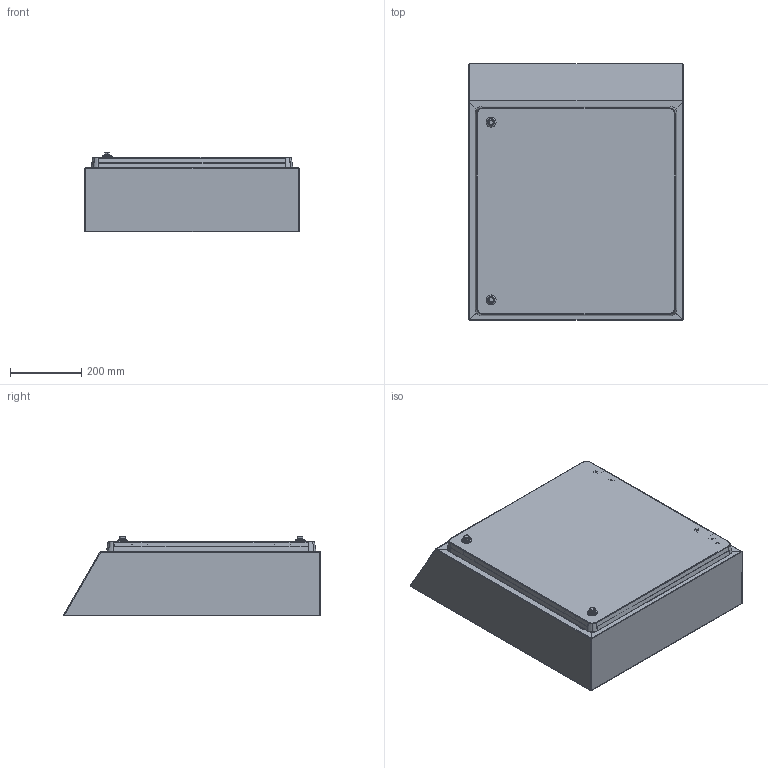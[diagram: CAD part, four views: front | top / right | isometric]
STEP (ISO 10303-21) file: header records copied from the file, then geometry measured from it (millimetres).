
FILE_DESCRIPTION (( 'STEP AP214' ), '1' );
FILE_NAME ('IP-H606021_stp.step', '2025-05-08T03:35:53', ( '' ), ( '' ), 'SwSTEP 2.0', 'SolidWorks 2023', '' );
FILE_SCHEMA (( 'AUTOMOTIVE_DESIGN' ));
Length unit declared in the file: millimetre
Products named in the file (1): IP-H606021_stp
Bounding box: 600.2 x 719.75 x 223.12 mm (x, y, z)
Volume: 2955104.7 mm3; surface area: 3545462.5 mm2
Topology: 77 solids, 77 shells, 3124 faces, 6922 edges, 3986 vertices
Faces by surface type: cylinder 852, plane 838, torus 788, cone 544, bspline 102
Entity records: 102683 total; most frequent: CARTESIAN_POINT 32337, DIRECTION 15630, ORIENTED_EDGE 13844, EDGE_CURVE 6922, AXIS2_PLACEMENT_3D 6393, VERTEX_POINT 3986, CIRCLE 3370, EDGE_LOOP 3278
